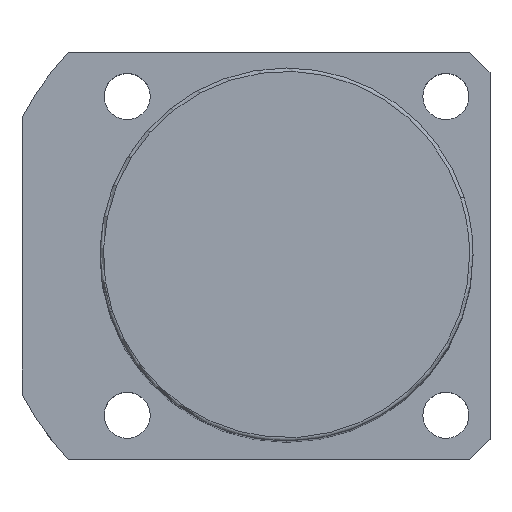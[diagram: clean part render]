
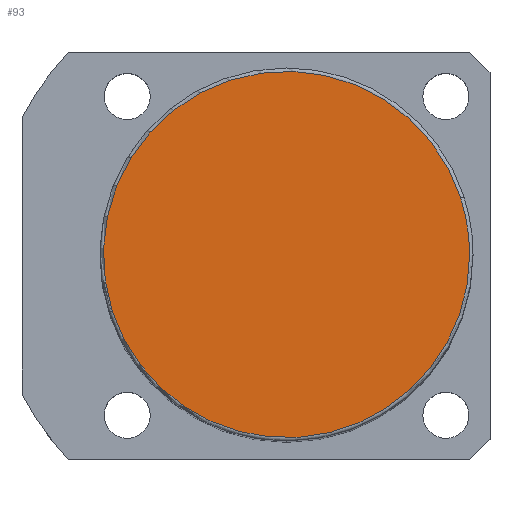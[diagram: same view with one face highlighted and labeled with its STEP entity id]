
A CAD part, top view. The second image highlights one B-rep face of the part: STEP entity #93.
In plain terms, the highlighted planar face has unit normal (0, 0, 1).
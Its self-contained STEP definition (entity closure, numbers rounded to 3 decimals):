
#16=CARTESIAN_POINT('',(25.679,8.343,126.0));
#17=VERTEX_POINT('',#16);
#45=CARTESIAN_POINT('',(-25.679,-8.343,126.0));
#46=VERTEX_POINT('',#45);
#54=CARTESIAN_POINT('',(0.0,0.0,126.0));
#55=DIRECTION('',(0.0,0.0,1.0));
#56=DIRECTION('',(1.0,0.0,0.0));
#57=AXIS2_PLACEMENT_3D('',#54,#55,#56);
#58=CIRCLE('',#57,27.0);
#59=EDGE_CURVE('no 890',#17,#46,#58,.T.);
#69=CARTESIAN_POINT('',(27.0,0.0,126.0));
#70=VERTEX_POINT('',#69);
#71=CARTESIAN_POINT('',(0.0,0.0,126.0));
#72=DIRECTION('',(0.0,0.0,1.0));
#73=DIRECTION('',(1.0,0.0,0.0));
#74=AXIS2_PLACEMENT_3D('',#71,#72,#73);
#75=CIRCLE('',#74,27.0);
#76=EDGE_CURVE('no 899',#70,#17,#75,.T.);
#77=ORIENTED_EDGE('',*,*,#76,.T.);
#78=ORIENTED_EDGE('',*,*,#59,.T.);
#79=CARTESIAN_POINT('',(0.0,0.0,126.0));
#80=DIRECTION('',(0.0,0.0,1.0));
#81=DIRECTION('',(1.0,0.0,0.0));
#82=AXIS2_PLACEMENT_3D('',#79,#80,#81);
#83=CIRCLE('',#82,27.0);
#84=EDGE_CURVE('no 905',#46,#70,#83,.T.);
#85=ORIENTED_EDGE('',*,*,#84,.T.);
#86=EDGE_LOOP('',(#77,#78,#85));
#87=FACE_OUTER_BOUND('',#86,.T.);
#88=CARTESIAN_POINT('',(0.0,0.0,126.0));
#89=DIRECTION('',(0.0,0.0,1.0));
#90=DIRECTION('',(1.0,0.0,0.0));
#91=AXIS2_PLACEMENT_3D('',#88,#89,#90);
#92=PLANE('',#91);
#93=ADVANCED_FACE('no 892',(#87),#92,.T.);
